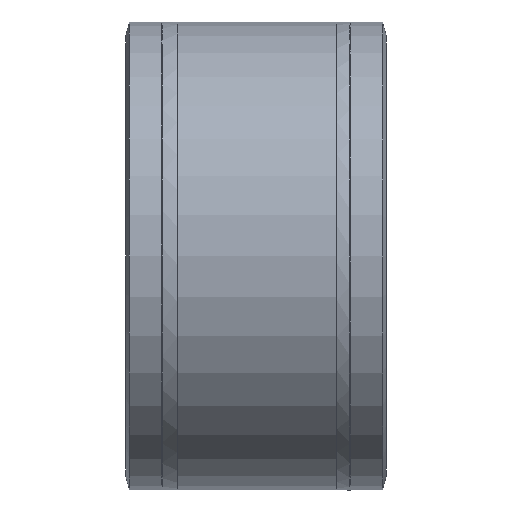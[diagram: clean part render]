
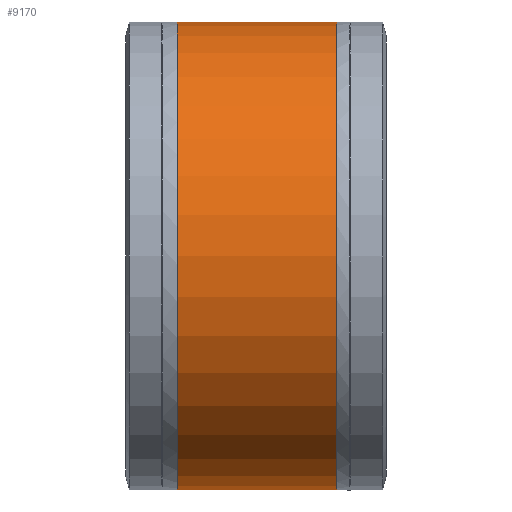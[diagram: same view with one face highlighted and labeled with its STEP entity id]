
A CAD part, front view. The second image highlights one B-rep face of the part: STEP entity #9170.
In plain terms, the highlighted cylindrical face has radius 305 mm (diameter 610 mm), a partial arc.
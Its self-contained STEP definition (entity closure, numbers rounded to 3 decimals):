
#121 = ORIENTED_EDGE ( 'NONE', *, *, #9680, .T. ) ;
#173 = VERTEX_POINT ( 'NONE', #1479 ) ;
#192 = EDGE_CURVE ( 'NONE', #9409, #7158, #1551, .T. ) ;
#236 = ORIENTED_EDGE ( 'NONE', *, *, #192, .T. ) ;
#440 = EDGE_CURVE ( 'NONE', #4002, #173, #3464, .T. ) ;
#1479 = CARTESIAN_POINT ( 'NONE',  ( -214.762, 0., 305. ) ) ;
#1551 = CIRCLE ( 'NONE', #1552, 305. ) ;
#1552 = AXIS2_PLACEMENT_3D ( 'NONE', #1553, #1554, #1555 ) ;
#1553 = CARTESIAN_POINT ( 'NONE',  ( -6.466, 0., 0. ) ) ;
#1554 = DIRECTION ( 'NONE',  ( -1., 0., 0. ) ) ;
#1555 = DIRECTION ( 'NONE',  ( 0., 0., 1. ) ) ;
#2863 = CARTESIAN_POINT ( 'NONE',  ( -6.466, 0., 305. ) ) ;
#3464 = CIRCLE ( 'NONE', #3465, 305. ) ;
#3465 = AXIS2_PLACEMENT_3D ( 'NONE', #3466, #3467, #3468 ) ;
#3466 = CARTESIAN_POINT ( 'NONE',  ( -214.762, 0., 0. ) ) ;
#3467 = DIRECTION ( 'NONE',  ( -1., 0., 0. ) ) ;
#3468 = DIRECTION ( 'NONE',  ( 0., 0., 1. ) ) ;
#3991 = CARTESIAN_POINT ( 'NONE',  ( -214.762, 0., -305. ) ) ;
#4002 = VERTEX_POINT ( 'NONE', #3991 ) ;
#4206 = LINE ( 'NONE', #4207, #4208 ) ;
#4207 = CARTESIAN_POINT ( 'NONE',  ( -229.893, 0., 305. ) ) ;
#4208 = VECTOR ( 'NONE', #4212, 1000. ) ;
#4212 = DIRECTION ( 'NONE',  ( -1., 0., 0. ) ) ;
#4228 = EDGE_CURVE ( 'NONE', #9409, #4002, #4485, .T. ) ;
#4485 = LINE ( 'NONE', #4486, #4487 ) ;
#4486 = CARTESIAN_POINT ( 'NONE',  ( -229.893, 0., -305. ) ) ;
#4487 = VECTOR ( 'NONE', #4488, 1000. ) ;
#4488 = DIRECTION ( 'NONE',  ( -1., 0., 0. ) ) ;
#4903 = ORIENTED_EDGE ( 'NONE', *, *, #440, .F. ) ;
#5772 = FACE_OUTER_BOUND ( 'NONE', #9155, .T. ) ;
#5773 = CYLINDRICAL_SURFACE ( 'NONE', #5774, 305. ) ;
#5774 = AXIS2_PLACEMENT_3D ( 'NONE', #5775, #5776, #5782 ) ;
#5775 = CARTESIAN_POINT ( 'NONE',  ( -229.893, 0., 0. ) ) ;
#5776 = DIRECTION ( 'NONE',  ( -1., 0., 0. ) ) ;
#5782 = DIRECTION ( 'NONE',  ( 0., 0., 1. ) ) ;
#7158 = VERTEX_POINT ( 'NONE', #2863 ) ;
#7449 = CARTESIAN_POINT ( 'NONE',  ( -6.466, 0., -305. ) ) ;
#8877 = ORIENTED_EDGE ( 'NONE', *, *, #4228, .F. ) ;
#9155 = EDGE_LOOP ( 'NONE', ( #8877, #236, #121, #4903 ) ) ;
#9170 = ADVANCED_FACE ( 'NONE', ( #5772 ), #5773, .T. ) ;
#9409 = VERTEX_POINT ( 'NONE', #7449 ) ;
#9680 = EDGE_CURVE ( 'NONE', #7158, #173, #4206, .T. ) ;
